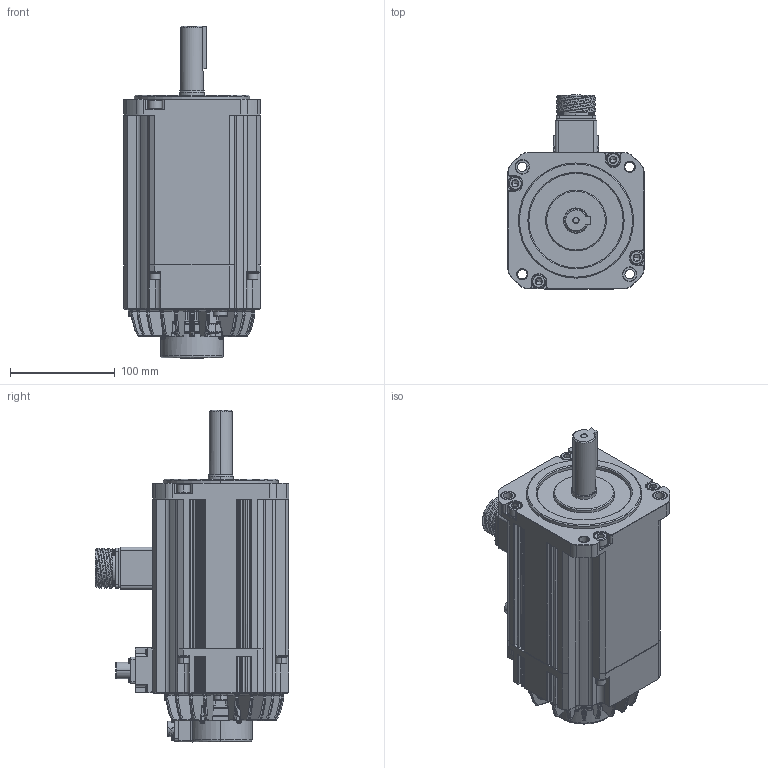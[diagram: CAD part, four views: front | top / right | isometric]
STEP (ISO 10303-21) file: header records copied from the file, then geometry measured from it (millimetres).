
FILE_DESCRIPTION (( 'STEP AP203' ), '1' );
FILE_NAME ('TSM3506N7375E721-1.STEP', '2018-06-29T07:46:47', ( '' ), ( '' ), 'SwSTEP 2.0', 'SolidWorks 2017', '' );
FILE_SCHEMA (( 'CONFIG_CONTROL_DESIGN' ));
Products named in the file (3): TSM3506N7375E721; 螺紋孔-?体; TSM3506N7375E721-1
Assembly tree (2 placements, depth 2):
  TSM3506N7375E721-1
    TSM3506N7375E721
    螺紋孔-?体
Bounding box: 130.5 x 185.2 x 317 mm (x, y, z)
Surface area: 209163.3 mm2
Topology: 4 solids, 10 shells, 3365 faces, 8490 edges, 5166 vertices
Faces by surface type: plane 1168, bspline 1120, cylinder 849, cone 228
Entity records: 160208 total; most frequent: CARTESIAN_POINT 87996, ORIENTED_EDGE 16766, DIRECTION 12365, EDGE_CURVE 8385, VERTEX_POINT 5166, AXIS2_PLACEMENT_3D 4222, LINE 3921, VECTOR 3921
